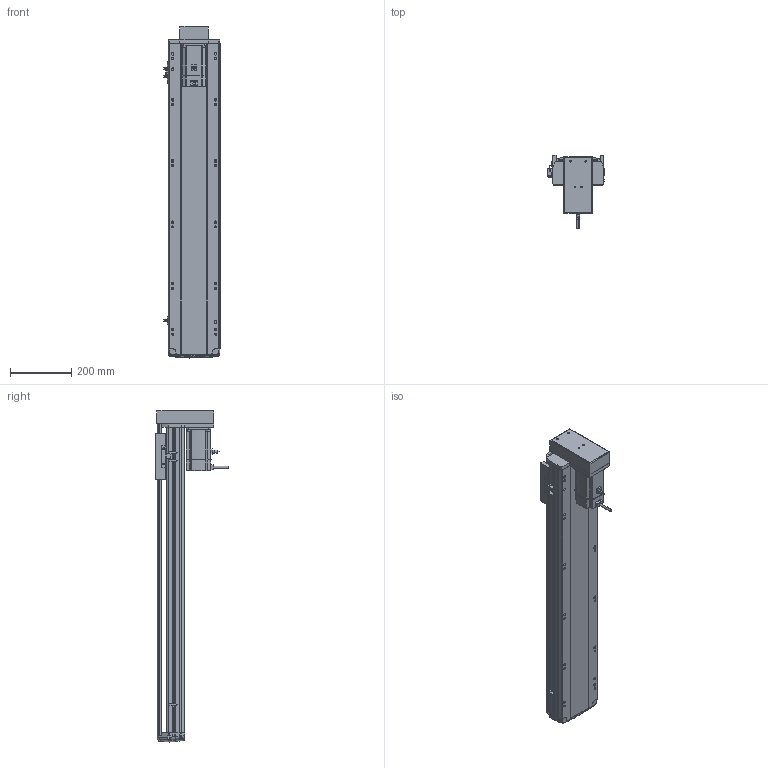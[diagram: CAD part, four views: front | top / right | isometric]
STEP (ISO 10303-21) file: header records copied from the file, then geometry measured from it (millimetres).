
FILE_DESCRIPTION (( 'STEP AP214' ), '1' );
FILE_NAME ('RTH17-XX-800-M-M75-C4.STEP', '2025-10-24T10:20:50', ( '' ), ( '' ), 'SwSTEP 2.0', 'SolidWorks 2018', '' );
FILE_SCHEMA (( 'AUTOMOTIVE_DESIGN' ));
Length unit declared in the file: millimetre
Products named in the file (10): N_OMRON EE-SX672 換覜ん^RTH17-XX-XX-M-M75-C4ㄗ源最宒ㄘ; N_RTH17-M-011底座^RTH17-XX-XX-M-M75-C4（方程式）; N_RTH17-GY-001P^RTH17-XX-XX-M-M75-C4（方程式）; N_RTH17-M-008-P75电机安装板下折750W^RTH17-XX-XX-M-M75-C4（方程式）; N_RTH17-M-018盖子^RTH17-XX-XX-M-M75-C4（方程式）; N_M75^RTH17-XX-XX-M-M75-C4（方程式）; N_RTH17-M-007上盖^RTH17-XX-XX-M-M75-C4（方程式）; N_RTH-BL-012 感应片(外置)^RTH17-XX-XX-M-M75-C4（方程式）; RTH17-XX-800-M-M75-C4; N_RTH17-E-004丝杆螺母连接座^RTH17-XX-XX-M-M75-C4（方程式）
Assembly tree (11 placements, depth 2):
  RTH17-XX-800-M-M75-C4
    N_RTH17-M-011底座^RTH17-XX-XX-M-M75-C4（方程式）
    N_RTH17-M-007上盖^RTH17-XX-XX-M-M75-C4（方程式）
    N_M75^RTH17-XX-XX-M-M75-C4（方程式）
    N_OMRON EE-SX672 換覜ん^RTH17-XX-XX-M-M75-C4ㄗ源最宒ㄘ  x3
    N_RTH-BL-012 感应片(外置)^RTH17-XX-XX-M-M75-C4（方程式）
    N_RTH17-M-008-P75电机安装板下折750W^RTH17-XX-XX-M-M75-C4（方程式）
    N_RTH17-M-018盖子^RTH17-XX-XX-M-M75-C4（方程式）
    N_RTH17-E-004丝杆螺母连接座^RTH17-XX-XX-M-M75-C4（方程式）
    N_RTH17-GY-001P^RTH17-XX-XX-M-M75-C4（方程式）
Bounding box: 183.5 x 240.7 x 1083.19 mm (x, y, z)
Volume: 8888918.4 mm3; surface area: 1238610.5 mm2
Topology: 10 solids, 12 shells, 1757 faces, 4850 edges, 3140 vertices
Faces by surface type: plane 830, cylinder 513, bspline 377, cone 28, torus 9
Entity records: 51423 total; most frequent: CARTESIAN_POINT 20520, ORIENTED_EDGE 6724, DIRECTION 5584, EDGE_CURVE 3366, VERTEX_POINT 2176, AXIS2_PLACEMENT_3D 1879, VECTOR 1826, LINE 1826
